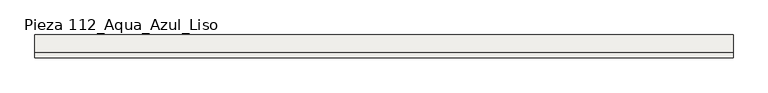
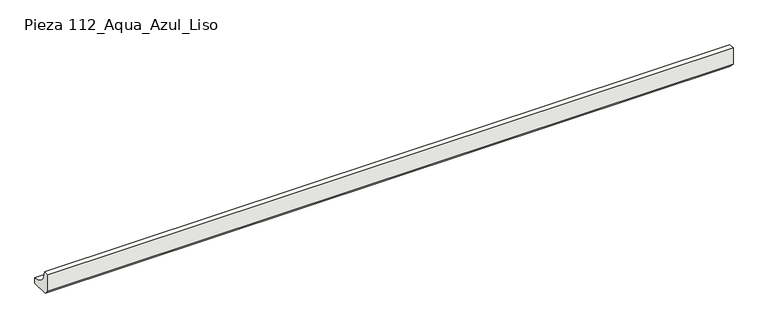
"""IFC4 building model written with IfcOpenShell, lengths in millimetres: slab geometry, ROSA GRES_112 : Pieza 112_Aqua_Azul_Liso."""

from ifc_helpers import new_model, si_unit, point, frame, frame_2d, origin, place, context, project, spatial, polyline, circle_curve, trimmed, segment, composite_curve, outline, extrude, source, transform, mapped, element, save


def pieza_112_aqua_azul_liso_17dfa691(model_context):
    return source(origin(), model_context, "Body", "SweptSolid", [
        extrude(outline(composite_curve([segment(polyline([(0.0, 8.7114978), (0.0, 40.0), (9.9734114, 40.0)]), True, "CONTINUOUS"), segment(trimmed(circle_curve(frame_2d((39.9955547, 39.9955547)), 30.0221435), [point((9.9734114, 40.0))], [point((40.0, 9.9734114))], True, "CARTESIAN"), True, "CONTINUOUS"), segment(polyline([(40.0, 9.9734114), (40.0, 0.0), (8.7114978, 0.0), (0.0, 8.7114978)]), True, "CONTINUOUS")], self_intersect=False)), frame((0.0, 0.0, 0.0), z_axis=(1.0, 0.0, 0.0), x_axis=(0.0, 1.0, 0.0)), (0.0, 0.0, 1.0), 1218.211259),
    ])


if __name__ == "__main__":
    model = new_model("IFC4")
    model_context = context("Model", 3, world=origin())
    ifc_project = project(units=[si_unit("LENGTHUNIT", "METRE", prefix="MILLI")], contexts=[model_context])
    site = spatial("IfcSite", under=ifc_project)
    building = spatial("IfcBuilding", under=site)
    placement = place(None, origin())
    pieza_112_aqua_azul_liso_shape = pieza_112_aqua_azul_liso_17dfa691(model_context)
    element("IfcSlab", 1, ObjectType="ROSA GRES_112 : Pieza 112_Aqua_Azul_Liso", at=placement, inside=building, context=model_context, shape_type="MappedRepresentation", body=[
        mapped(pieza_112_aqua_azul_liso_shape, transform((0.0, 0.0, 0.0), x_axis=(1.0, 0.0, 0.0), y_axis=(0.0, 1.0, 0.0), z_axis=(0.0, 0.0, 1.0))),
    ])
    save(model, "model.ifc")
